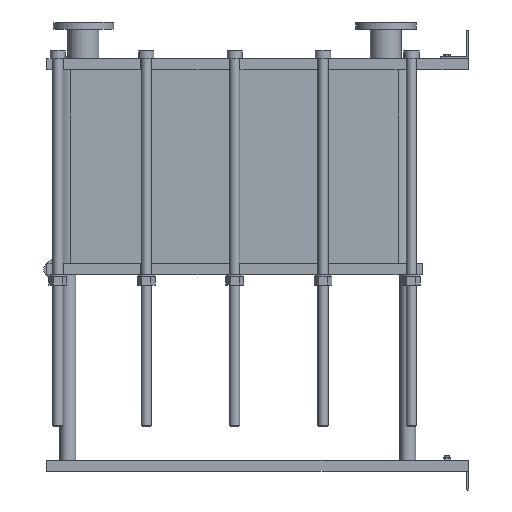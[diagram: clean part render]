
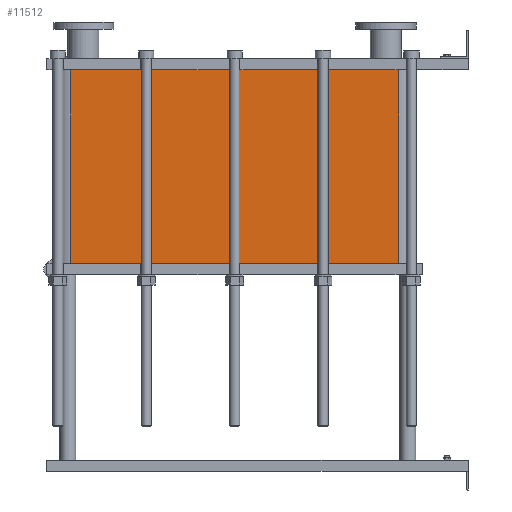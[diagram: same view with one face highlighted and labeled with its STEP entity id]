
A CAD part, left-side view. The second image highlights one B-rep face of the part: STEP entity #11512.
In plain terms, the highlighted planar face has unit normal (-1, 0, 0).
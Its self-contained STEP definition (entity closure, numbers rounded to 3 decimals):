
#1129=LINE('',#23232,#2102);
#1130=LINE('',#23236,#2103);
#1131=LINE('',#23238,#2104);
#1132=LINE('',#23239,#2105);
#2102=VECTOR('',#15887,10.);
#2103=VECTOR('',#15892,10.);
#2104=VECTOR('',#15893,10.);
#2105=VECTOR('',#15894,10.);
#3267=FACE_OUTER_BOUND('',#4093,.T.);
#4093=EDGE_LOOP('',(#10103,#10104,#10105,#10106));
#5642=VERTEX_POINT('',#23229);
#5643=VERTEX_POINT('',#23231);
#5644=VERTEX_POINT('',#23235);
#5645=VERTEX_POINT('',#23237);
#7159=EDGE_CURVE('',#5643,#5642,#1129,.T.);
#7161=EDGE_CURVE('',#5642,#5644,#1130,.T.);
#7162=EDGE_CURVE('',#5645,#5644,#1131,.T.);
#7163=EDGE_CURVE('',#5645,#5643,#1132,.T.);
#10103=ORIENTED_EDGE('',*,*,#7161,.T.);
#10104=ORIENTED_EDGE('',*,*,#7162,.F.);
#10105=ORIENTED_EDGE('',*,*,#7163,.T.);
#10106=ORIENTED_EDGE('',*,*,#7159,.T.);
#10857=PLANE('',#12751);
#11512=ADVANCED_FACE('',(#3267),#10857,.T.);
#12751=AXIS2_PLACEMENT_3D('',#23234,#15890,#15891);
#15887=DIRECTION('',(0.,0.,-1.));
#15890=DIRECTION('center_axis',(-1.,0.,0.));
#15891=DIRECTION('ref_axis',(0.,1.,0.));
#15892=DIRECTION('',(0.,-1.,0.));
#15893=DIRECTION('',(0.,0.,-1.));
#15894=DIRECTION('',(0.,1.,0.));
#23229=CARTESIAN_POINT('',(-200.,1414.,-690.));
#23231=CARTESIAN_POINT('',(-200.,1414.,0.));
#23232=CARTESIAN_POINT('',(-200.,1414.,0.));
#23234=CARTESIAN_POINT('Origin',(-200.,248.,0.));
#23235=CARTESIAN_POINT('',(-200.,248.,-690.));
#23236=CARTESIAN_POINT('',(-200.,539.5,-690.));
#23237=CARTESIAN_POINT('',(-200.,248.,0.));
#23238=CARTESIAN_POINT('',(-200.,248.,0.));
#23239=CARTESIAN_POINT('',(-200.,248.,0.));
